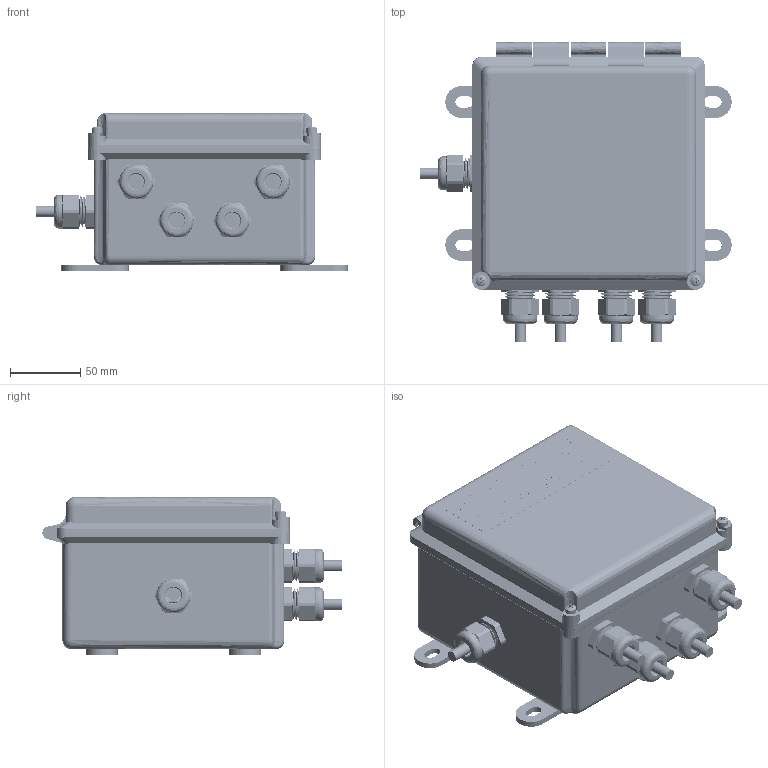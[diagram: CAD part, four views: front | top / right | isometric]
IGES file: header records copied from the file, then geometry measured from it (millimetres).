
Start section: SolidWorks IGES file using analytic representation for surfaces
Global section: file name: C:\0_Work\SolidWorks\HI 6020 Series\HI6020JB-FG2.IGS; native system: SolidWorks 2020; preprocessor: SolidWorks 2020; author: vach01; date: 210610.130003; units: inch
Bounding box: 220.99 x 212.4 x 112.3 mm (x, y, z)
Surface area: 405867.1 mm2 (no closed solid volume)
Topology: 0 solids, 0 shells, 15894 faces, 151177 edges, 151058 vertices
Faces by surface type: bspline 12249, revolution 3645
